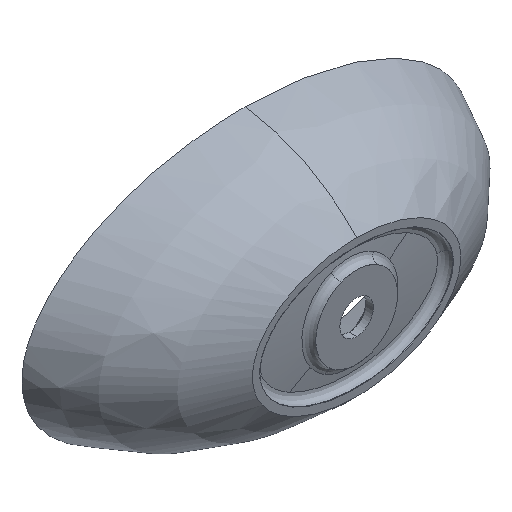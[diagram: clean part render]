
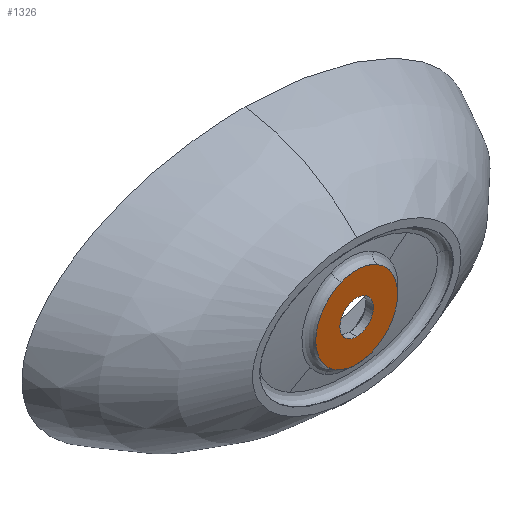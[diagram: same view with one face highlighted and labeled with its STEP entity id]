
A CAD part, isometric view. The second image highlights one B-rep face of the part: STEP entity #1326.
In plain terms, the highlighted planar face has unit normal (0, -1, 0).
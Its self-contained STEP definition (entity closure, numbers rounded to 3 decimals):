
#91 = EDGE_LOOP ( 'NONE', ( #2627, #4524 ) ) ;
#191 = VERTEX_POINT ( 'NONE', #232 ) ;
#232 = CARTESIAN_POINT ( 'NONE',  ( 0., -150., -22.5 ) ) ;
#262 = CARTESIAN_POINT ( 'NONE',  ( 0., -150., 0. ) ) ;
#506 = EDGE_CURVE ( 'NONE', #8206, #4768, #1793, .T. ) ;
#540 = CIRCLE ( 'NONE', #4620, 55. ) ;
#608 = CARTESIAN_POINT ( 'NONE',  ( 0., -150., 0. ) ) ;
#739 = CARTESIAN_POINT ( 'NONE',  ( -27.568, -150., -47.592 ) ) ;
#782 = AXIS2_PLACEMENT_3D ( 'NONE', #1072, #7430, #1674 ) ;
#937 = DIRECTION ( 'NONE',  ( 0., 0., 1. ) ) ;
#945 = EDGE_CURVE ( 'NONE', #6816, #2898, #7466, .T. ) ;
#990 = CARTESIAN_POINT ( 'NONE',  ( 0., -150., 0. ) ) ;
#1072 = CARTESIAN_POINT ( 'NONE',  ( 0., -150., 0. ) ) ;
#1288 = DIRECTION ( 'NONE',  ( 0., 0., 1. ) ) ;
#1326 = ADVANCED_FACE ( 'NONE', ( #5908, #1361 ), #6664, .F. ) ;
#1361 = FACE_OUTER_BOUND ( 'NONE', #5590, .T. ) ;
#1384 = ORIENTED_EDGE ( 'NONE', *, *, #7975, .T. ) ;
#1659 = DIRECTION ( 'NONE',  ( 0., 0., -1. ) ) ;
#1674 = DIRECTION ( 'NONE',  ( 0., 0., -1. ) ) ;
#1793 = CIRCLE ( 'NONE', #4580, 55. ) ;
#2290 = VERTEX_POINT ( 'NONE', #6305 ) ;
#2474 = DIRECTION ( 'NONE',  ( 0., 0., 1. ) ) ;
#2514 = CARTESIAN_POINT ( 'NONE',  ( 20.703, -150., -50.955 ) ) ;
#2627 = ORIENTED_EDGE ( 'NONE', *, *, #6554, .T. ) ;
#2727 = ORIENTED_EDGE ( 'NONE', *, *, #945, .T. ) ;
#2898 = VERTEX_POINT ( 'NONE', #2514 ) ;
#2993 = DIRECTION ( 'NONE',  ( 0., -1., 0. ) ) ;
#3156 = DIRECTION ( 'NONE',  ( 0., -1., 0. ) ) ;
#3256 = AXIS2_PLACEMENT_3D ( 'NONE', #7016, #2993, #7701 ) ;
#3581 = CARTESIAN_POINT ( 'NONE',  ( 0., -150., 0. ) ) ;
#3622 = CARTESIAN_POINT ( 'NONE',  ( 0., -150., 0. ) ) ;
#4300 = CARTESIAN_POINT ( 'NONE',  ( 0., -150., 22.5 ) ) ;
#4524 = ORIENTED_EDGE ( 'NONE', *, *, #4928, .T. ) ;
#4580 = AXIS2_PLACEMENT_3D ( 'NONE', #3581, #8402, #8347 ) ;
#4620 = AXIS2_PLACEMENT_3D ( 'NONE', #7182, #3156, #7869 ) ;
#4682 = CARTESIAN_POINT ( 'NONE',  ( 0., -150., -55. ) ) ;
#4768 = VERTEX_POINT ( 'NONE', #739 ) ;
#4928 = EDGE_CURVE ( 'NONE', #191, #5052, #5783, .T. ) ;
#4985 = DIRECTION ( 'NONE',  ( 0., 1., 0. ) ) ;
#5038 = CARTESIAN_POINT ( 'NONE',  ( -20.594, -150., 50.999 ) ) ;
#5052 = VERTEX_POINT ( 'NONE', #4300 ) ;
#5114 = AXIS2_PLACEMENT_3D ( 'NONE', #262, #4985, #937 ) ;
#5331 = DIRECTION ( 'NONE',  ( 0., 1., 0. ) ) ;
#5473 = AXIS2_PLACEMENT_3D ( 'NONE', #3622, #7878, #2474 ) ;
#5482 = CIRCLE ( 'NONE', #5508, 55. ) ;
#5508 = AXIS2_PLACEMENT_3D ( 'NONE', #990, #5703, #1659 ) ;
#5590 = EDGE_LOOP ( 'NONE', ( #1384, #8708, #6095, #6114, #2727 ) ) ;
#5703 = DIRECTION ( 'NONE',  ( 0., -1., 0. ) ) ;
#5783 = CIRCLE ( 'NONE', #5114, 22.5 ) ;
#5908 = FACE_BOUND ( 'NONE', #91, .T. ) ;
#6095 = ORIENTED_EDGE ( 'NONE', *, *, #506, .T. ) ;
#6114 = ORIENTED_EDGE ( 'NONE', *, *, #7229, .T. ) ;
#6305 = CARTESIAN_POINT ( 'NONE',  ( 27.72, -150., 47.504 ) ) ;
#6554 = EDGE_CURVE ( 'NONE', #5052, #191, #7048, .T. ) ;
#6664 = PLANE ( 'NONE',  #5473 ) ;
#6816 = VERTEX_POINT ( 'NONE', #4682 ) ;
#7016 = CARTESIAN_POINT ( 'NONE',  ( 0., -150., 0. ) ) ;
#7048 = CIRCLE ( 'NONE', #7812, 22.5 ) ;
#7182 = CARTESIAN_POINT ( 'NONE',  ( 0., -150., 0. ) ) ;
#7229 = EDGE_CURVE ( 'NONE', #4768, #6816, #540, .T. ) ;
#7278 = CIRCLE ( 'NONE', #3256, 55. ) ;
#7430 = DIRECTION ( 'NONE',  ( 0., -1., 0. ) ) ;
#7466 = CIRCLE ( 'NONE', #782, 55. ) ;
#7701 = DIRECTION ( 'NONE',  ( 0., 0., -1. ) ) ;
#7812 = AXIS2_PLACEMENT_3D ( 'NONE', #608, #5331, #1288 ) ;
#7869 = DIRECTION ( 'NONE',  ( 0., 0., -1. ) ) ;
#7878 = DIRECTION ( 'NONE',  ( 0., 1., 0. ) ) ;
#7975 = EDGE_CURVE ( 'NONE', #2898, #2290, #7278, .T. ) ;
#8134 = EDGE_CURVE ( 'NONE', #2290, #8206, #5482, .T. ) ;
#8206 = VERTEX_POINT ( 'NONE', #5038 ) ;
#8347 = DIRECTION ( 'NONE',  ( 0., 0., -1. ) ) ;
#8402 = DIRECTION ( 'NONE',  ( 0., -1., 0. ) ) ;
#8708 = ORIENTED_EDGE ( 'NONE', *, *, #8134, .T. ) ;
